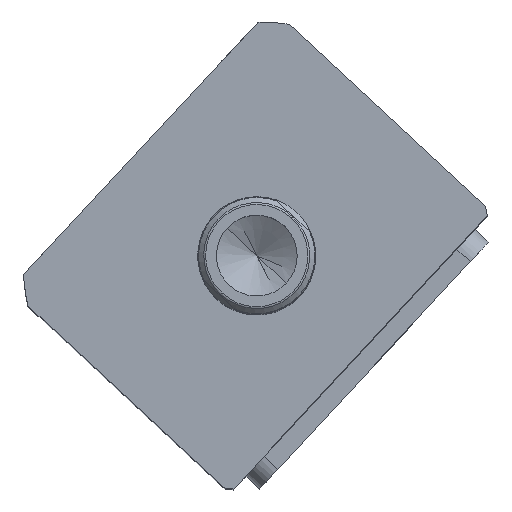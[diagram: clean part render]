
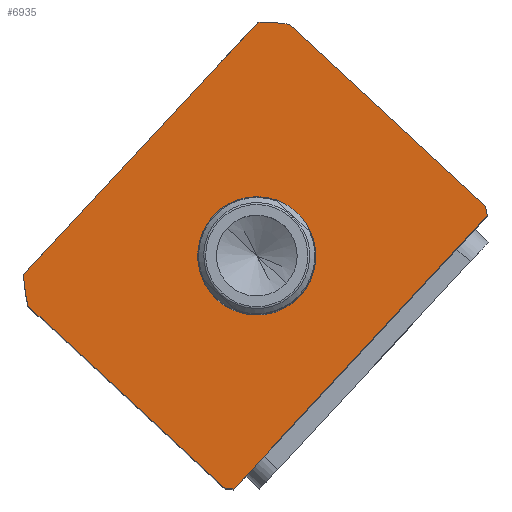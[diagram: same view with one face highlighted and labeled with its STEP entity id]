
A CAD part, top view. The second image highlights one B-rep face of the part: STEP entity #6935.
In plain terms, the highlighted planar face has unit normal (0, 0, 1) as drawn and (0, 0, -1) by its records, which use the part's own axes.
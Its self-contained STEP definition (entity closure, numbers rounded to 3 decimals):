
#250 = VERTEX_POINT ( 'NONE', #8114 ) ;
#822 = CARTESIAN_POINT ( 'NONE',  ( 57., -17.497, 0. ) ) ;
#909 = CARTESIAN_POINT ( 'NONE',  ( -51.198, -106.497, 0. ) ) ;
#910 = EDGE_LOOP ( 'NONE', ( #16423, #14048, #9720, #18233, #13528, #16684, #12956, #18445 ) ) ;
#1223 = DIRECTION ( 'NONE',  ( 0., 0., 1. ) ) ;
#1409 = DIRECTION ( 'NONE',  ( 1., 0., 0. ) ) ;
#1433 = VECTOR ( 'NONE', #4181, 1000. ) ;
#1443 = EDGE_CURVE ( 'NONE', #8136, #11331, #14794, .T. ) ;
#1471 = CARTESIAN_POINT ( 'NONE',  ( 0., -59.497, 0. ) ) ;
#1869 = EDGE_CURVE ( 'NONE', #17339, #250, #16394, .T. ) ;
#2275 = DIRECTION ( 'NONE',  ( 0., 0., 1. ) ) ;
#2307 = VERTEX_POINT ( 'NONE', #16422 ) ;
#2736 = CIRCLE ( 'NONE', #6849, 69.5 ) ;
#2932 = VECTOR ( 'NONE', #5210, 1000. ) ;
#2970 = DIRECTION ( 'NONE',  ( 0., 0., 1. ) ) ;
#3830 = VERTEX_POINT ( 'NONE', #13479 ) ;
#3856 = DIRECTION ( 'NONE',  ( -1., 0., 0. ) ) ;
#4181 = DIRECTION ( 'NONE',  ( 1., 0., 0. ) ) ;
#4301 = DIRECTION ( 'NONE',  ( 0., 0., 1. ) ) ;
#5207 = CARTESIAN_POINT ( 'NONE',  ( 0., -59.497, 0. ) ) ;
#5210 = DIRECTION ( 'NONE',  ( 0., 1., 0. ) ) ;
#6456 = CARTESIAN_POINT ( 'NONE',  ( 0., -59.497, 0. ) ) ;
#6624 = DIRECTION ( 'NONE',  ( 1., 0., 0. ) ) ;
#6631 = DIRECTION ( 'NONE',  ( 1., 0., 0. ) ) ;
#6691 = CARTESIAN_POINT ( 'NONE',  ( -57., -17.497, 0. ) ) ;
#6792 = FACE_BOUND ( 'NONE', #15204, .T. ) ;
#6816 = AXIS2_PLACEMENT_3D ( 'NONE', #1471, #1223, #1409 ) ;
#6849 = AXIS2_PLACEMENT_3D ( 'NONE', #13035, #4301, #14491 ) ;
#6935 = ADVANCED_FACE ( 'NONE', ( #6792, #14587 ), #7966, .F. ) ;
#7082 = CARTESIAN_POINT ( 'NONE',  ( -57., -106.497, 0. ) ) ;
#7303 = EDGE_CURVE ( 'NONE', #7408, #14346, #16637, .T. ) ;
#7408 = VERTEX_POINT ( 'NONE', #9081 ) ;
#7807 = EDGE_CURVE ( 'NONE', #2307, #13236, #15264, .T. ) ;
#7919 = DIRECTION ( 'NONE',  ( 1., 0., 0. ) ) ;
#7966 = PLANE ( 'NONE',  #9800 ) ;
#8114 = CARTESIAN_POINT ( 'NONE',  ( -55.374, -17.497, 0. ) ) ;
#8136 = VERTEX_POINT ( 'NONE', #16038 ) ;
#9081 = CARTESIAN_POINT ( 'NONE',  ( 17.5, -59.497, 0. ) ) ;
#9692 = DIRECTION ( 'NONE',  ( 0., -1., 0. ) ) ;
#9720 = ORIENTED_EDGE ( 'NONE', *, *, #1443, .F. ) ;
#9800 = AXIS2_PLACEMENT_3D ( 'NONE', #12438, #15376, #6624 ) ;
#10333 = CARTESIAN_POINT ( 'NONE',  ( 57., -99.262, 0. ) ) ;
#10344 = CARTESIAN_POINT ( 'NONE',  ( 55.374, -17.497, 0. ) ) ;
#10434 = AXIS2_PLACEMENT_3D ( 'NONE', #5207, #15382, #6631 ) ;
#10750 = AXIS2_PLACEMENT_3D ( 'NONE', #6456, #16695, #7919 ) ;
#10848 = ORIENTED_EDGE ( 'NONE', *, *, #18465, .T. ) ;
#10964 = CARTESIAN_POINT ( 'NONE',  ( 0., -59.497, 0. ) ) ;
#11331 = VERTEX_POINT ( 'NONE', #10333 ) ;
#11621 = CARTESIAN_POINT ( 'NONE',  ( -17.5, -59.497, 0. ) ) ;
#11678 = CARTESIAN_POINT ( 'NONE',  ( 0., -59.497, 0. ) ) ;
#12424 = DIRECTION ( 'NONE',  ( 1., 0., 0. ) ) ;
#12438 = CARTESIAN_POINT ( 'NONE',  ( 0., 0., 0. ) ) ;
#12492 = VECTOR ( 'NONE', #3856, 1000. ) ;
#12632 = CARTESIAN_POINT ( 'NONE',  ( -57., -17.497, 0. ) ) ;
#12912 = EDGE_CURVE ( 'NONE', #13236, #8136, #12994, .T. ) ;
#12956 = ORIENTED_EDGE ( 'NONE', *, *, #14323, .F. ) ;
#12994 = LINE ( 'NONE', #7082, #1433 ) ;
#13035 = CARTESIAN_POINT ( 'NONE',  ( 0., -59.497, 0. ) ) ;
#13148 = DIRECTION ( 'NONE',  ( 1., 0., 0. ) ) ;
#13236 = VERTEX_POINT ( 'NONE', #909 ) ;
#13446 = CIRCLE ( 'NONE', #17628, 69.5 ) ;
#13479 = CARTESIAN_POINT ( 'NONE',  ( -57., -19.732, 0. ) ) ;
#13528 = ORIENTED_EDGE ( 'NONE', *, *, #7807, .F. ) ;
#13648 = VERTEX_POINT ( 'NONE', #14474 ) ;
#14048 = ORIENTED_EDGE ( 'NONE', *, *, #16114, .F. ) ;
#14171 = EDGE_CURVE ( 'NONE', #3830, #2307, #18643, .T. ) ;
#14323 = EDGE_CURVE ( 'NONE', #250, #3830, #2736, .T. ) ;
#14346 = VERTEX_POINT ( 'NONE', #11621 ) ;
#14350 = VECTOR ( 'NONE', #9692, 1000. ) ;
#14474 = CARTESIAN_POINT ( 'NONE',  ( 57., -19.732, 0. ) ) ;
#14491 = DIRECTION ( 'NONE',  ( 1., 0., 0. ) ) ;
#14543 = LINE ( 'NONE', #822, #2932 ) ;
#14587 = FACE_OUTER_BOUND ( 'NONE', #910, .T. ) ;
#14794 = CIRCLE ( 'NONE', #6816, 69.5 ) ;
#14801 = EDGE_CURVE ( 'NONE', #13648, #17339, #13446, .T. ) ;
#15204 = EDGE_LOOP ( 'NONE', ( #16369, #10848 ) ) ;
#15264 = CIRCLE ( 'NONE', #10434, 69.5 ) ;
#15376 = DIRECTION ( 'NONE',  ( 0., 0., 1. ) ) ;
#15382 = DIRECTION ( 'NONE',  ( 0., 0., 1. ) ) ;
#16038 = CARTESIAN_POINT ( 'NONE',  ( 51.198, -106.497, 0. ) ) ;
#16114 = EDGE_CURVE ( 'NONE', #11331, #13648, #14543, .T. ) ;
#16369 = ORIENTED_EDGE ( 'NONE', *, *, #7303, .T. ) ;
#16394 = LINE ( 'NONE', #6691, #12492 ) ;
#16422 = CARTESIAN_POINT ( 'NONE',  ( -57., -99.262, 0. ) ) ;
#16423 = ORIENTED_EDGE ( 'NONE', *, *, #14801, .F. ) ;
#16637 = CIRCLE ( 'NONE', #16669, 17.5 ) ;
#16669 = AXIS2_PLACEMENT_3D ( 'NONE', #11678, #2970, #13148 ) ;
#16684 = ORIENTED_EDGE ( 'NONE', *, *, #14171, .F. ) ;
#16695 = DIRECTION ( 'NONE',  ( 0., 0., 1. ) ) ;
#17339 = VERTEX_POINT ( 'NONE', #10344 ) ;
#17628 = AXIS2_PLACEMENT_3D ( 'NONE', #10964, #2275, #12424 ) ;
#18133 = CIRCLE ( 'NONE', #10750, 17.5 ) ;
#18233 = ORIENTED_EDGE ( 'NONE', *, *, #12912, .F. ) ;
#18445 = ORIENTED_EDGE ( 'NONE', *, *, #1869, .F. ) ;
#18465 = EDGE_CURVE ( 'NONE', #14346, #7408, #18133, .T. ) ;
#18643 = LINE ( 'NONE', #12632, #14350 ) ;
